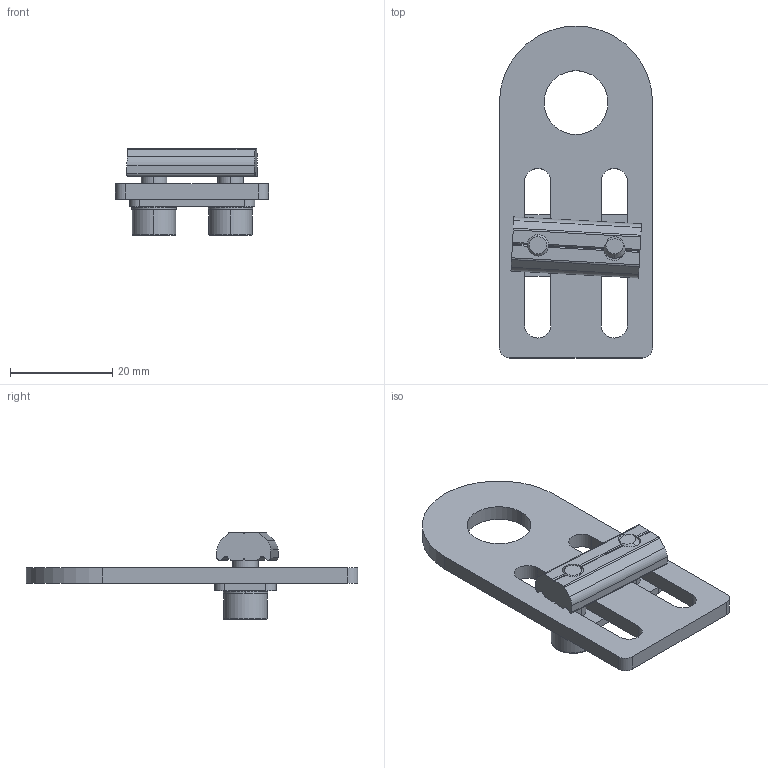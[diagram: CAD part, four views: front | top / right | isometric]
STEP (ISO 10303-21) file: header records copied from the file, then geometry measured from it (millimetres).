
FILE_DESCRIPTION (( 'STEP AP214' ), '1' );
FILE_NAME ('SMBE6-1228T.STEP', '2023-01-09T08:31:04', ( 'Windows User' ), ( 'P R C' ), 'SwSTEP 2.0', 'SolidWorks 2018', '' );
FILE_SCHEMA (( 'AUTOMOTIVE_DESIGN' ));
Length unit declared in the file: millimetre
Products named in the file (1): SMBE6-1228T
Bounding box: 30 x 65 x 17 mm (x, y, z)
Volume: 6615.4 mm3; surface area: 6627.8 mm2
Topology: 7 solids, 7 shells, 510 faces, 1476 edges, 976 vertices
Faces by surface type: plane 447, cylinder 55, cone 4, bspline 4
Entity records: 22940 total; most frequent: CARTESIAN_POINT 3425, ORIENTED_EDGE 2952, DIRECTION 2924, EDGE_CURVE 1476, AXIS2_PLACEMENT_3D 981, VERTEX_POINT 976, LINE 962, VECTOR 962
